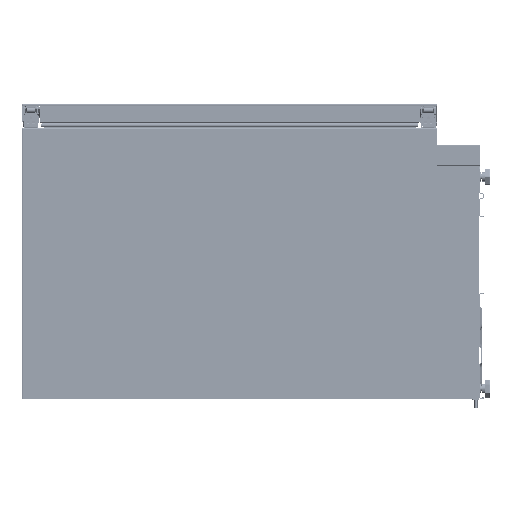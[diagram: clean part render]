
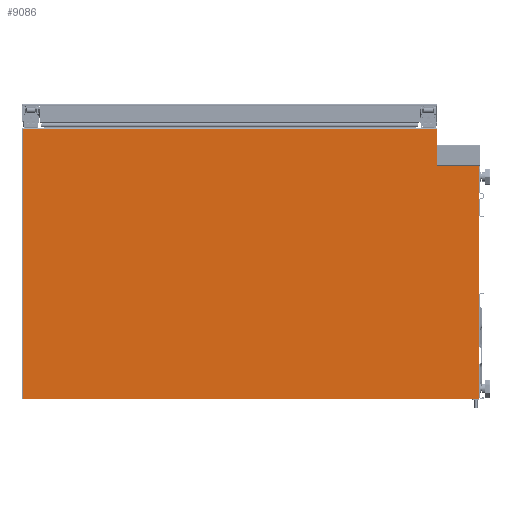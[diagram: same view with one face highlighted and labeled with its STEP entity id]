
A CAD part, left-side view. The second image highlights one B-rep face of the part: STEP entity #9086.
In plain terms, the highlighted planar face has unit normal (-1, 0, 0).
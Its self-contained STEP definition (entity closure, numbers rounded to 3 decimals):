
#1178=DIRECTION('',(0.,0.,-1.));
#1179=VECTOR('',#1178,69.5);
#1180=CARTESIAN_POINT('',(-297.,-779.6,0.));
#1181=LINE('',#1180,#1179);
#1182=CARTESIAN_POINT('',(-297.,-779.6,-69.5));
#1461=DIRECTION('',(0.,0.,-1.));
#1462=VECTOR('',#1461,439.2);
#1463=CARTESIAN_POINT('',(-297.,-859.6,-70.));
#1464=LINE('',#1463,#1462);
#2486=DIRECTION('',(0.,-1.,0.));
#2487=VECTOR('',#2486,779.2);
#2488=CARTESIAN_POINT('',(-297.,-0.4,0.));
#2489=LINE('',#2488,#2487);
#2490=DIRECTION('',(0.,0.,-1.));
#2491=VECTOR('',#2490,509.2);
#2492=CARTESIAN_POINT('',(-297.,-0.4,0.));
#2493=LINE('',#2492,#2491);
#2494=DIRECTION('',(0.,0.,-1.));
#2495=VECTOR('',#2494,0.5);
#2496=CARTESIAN_POINT('',(-297.,-779.6,-69.5));
#2497=LINE('',#2496,#2495);
#2498=DIRECTION('',(0.,1.,0.));
#2499=VECTOR('',#2498,0.5);
#2500=CARTESIAN_POINT('',(-297.,-780.1,-70.));
#2501=LINE('',#2500,#2499);
#2502=DIRECTION('',(0.,-1.,0.));
#2503=VECTOR('',#2502,79.5);
#2504=CARTESIAN_POINT('',(-297.,-780.1,-70.));
#2505=LINE('',#2504,#2503);
#2680=DIRECTION('',(0.,1.,0.));
#2681=VECTOR('',#2680,859.2);
#2682=CARTESIAN_POINT('',(-297.,-859.6,-509.2));
#2683=LINE('',#2682,#2681);
#3239=CARTESIAN_POINT('',(-297.,-0.4,0.));
#3240=VERTEX_POINT('',#3239);
#3242=CARTESIAN_POINT('',(-297.,-0.4,-509.2));
#3244=VERTEX_POINT('',#3242);
#3245=CARTESIAN_POINT('',(-297.,-859.6,-509.2));
#3247=VERTEX_POINT('',#3245);
#3418=CARTESIAN_POINT('',(-297.,-779.6,0.));
#3420=VERTEX_POINT('',#3418);
#3437=CARTESIAN_POINT('',(-297.,-859.6,-70.));
#3439=VERTEX_POINT('',#3437);
#3445=CARTESIAN_POINT('',(-297.,-779.6,-70.));
#3447=VERTEX_POINT('',#3445);
#3565=VERTEX_POINT('',#1182);
#3567=CARTESIAN_POINT('',(-297.,-780.1,-70.));
#3569=VERTEX_POINT('',#3567);
#9067=CARTESIAN_POINT('',(-297.,-0.4,0.));
#9068=DIRECTION('',(1.,0.,0.));
#9069=DIRECTION('',(0.,-1.,0.));
#9070=AXIS2_PLACEMENT_3D('',#9067,#9068,#9069);
#9071=PLANE('',#9070);
#9073=ORIENTED_EDGE('',*,*,#9072,.T.);
#9074=ORIENTED_EDGE('',*,*,#6879,.T.);
#9076=ORIENTED_EDGE('',*,*,#9075,.T.);
#9078=ORIENTED_EDGE('',*,*,#9077,.F.);
#9079=ORIENTED_EDGE('',*,*,#9053,.T.);
#9080=ORIENTED_EDGE('',*,*,#6309,.T.);
#9081=ORIENTED_EDGE('',*,*,#6351,.T.);
#9083=ORIENTED_EDGE('',*,*,#9082,.F.);
#9084=EDGE_LOOP('',(#9073,#9074,#9076,#9078,#9079,#9080,#9081,#9083));
#9085=FACE_OUTER_BOUND('',#9084,.F.);
#9086=ADVANCED_FACE('',(#9085),#9071,.F.);
#6309=EDGE_CURVE('',#3420,#3565,#1181,.T.);
#6351=EDGE_CURVE('',#3565,#3447,#2497,.T.);
#6879=EDGE_CURVE('',#3439,#3247,#1464,.T.);
#9053=EDGE_CURVE('',#3240,#3420,#2489,.T.);
#9072=EDGE_CURVE('',#3569,#3439,#2505,.T.);
#9075=EDGE_CURVE('',#3247,#3244,#2683,.T.);
#9077=EDGE_CURVE('',#3240,#3244,#2493,.T.);
#9082=EDGE_CURVE('',#3569,#3447,#2501,.T.);
